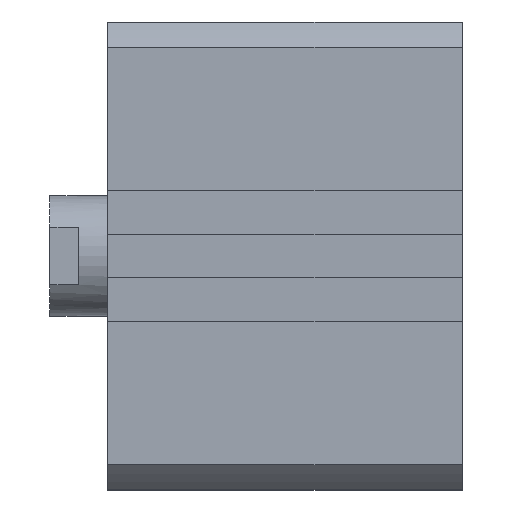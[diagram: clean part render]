
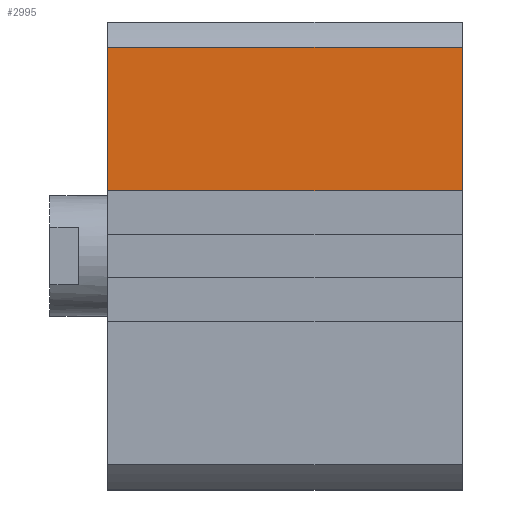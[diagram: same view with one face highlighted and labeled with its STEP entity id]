
A CAD part, left-side view. The second image highlights one B-rep face of the part: STEP entity #2995.
In plain terms, the highlighted planar face has unit normal (-1, 0, 0).
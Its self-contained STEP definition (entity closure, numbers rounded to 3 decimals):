
#52 = VERTEX_POINT ( 'NONE', #1377 ) ;
#90 = AXIS2_PLACEMENT_3D ( 'NONE', #865, #832, #315 ) ;
#112 = EDGE_CURVE ( 'NONE', #169, #2019, #313, .T. ) ;
#169 = VERTEX_POINT ( 'NONE', #2729 ) ;
#191 = CARTESIAN_POINT ( 'NONE',  ( -48.5, -73.5, 43.275 ) ) ;
#313 = LINE ( 'NONE', #1635, #3055 ) ;
#315 = DIRECTION ( 'NONE',  ( 0., 0., 1. ) ) ;
#333 = LINE ( 'NONE', #1909, #1824 ) ;
#542 = LINE ( 'NONE', #2300, #1828 ) ;
#832 = DIRECTION ( 'NONE',  ( -1., 0., 0. ) ) ;
#846 = DIRECTION ( 'NONE',  ( 0., 1., 0. ) ) ;
#860 = ORIENTED_EDGE ( 'NONE', *, *, #2264, .T. ) ;
#865 = CARTESIAN_POINT ( 'NONE',  ( -48.5, -73.5, 0. ) ) ;
#926 = FACE_OUTER_BOUND ( 'NONE', #2475, .T. ) ;
#1377 = CARTESIAN_POINT ( 'NONE',  ( -48.5, 0., 43.275 ) ) ;
#1401 = ORIENTED_EDGE ( 'NONE', *, *, #1569, .F. ) ;
#1448 = EDGE_CURVE ( 'NONE', #169, #2859, #542, .T. ) ;
#1514 = DIRECTION ( 'NONE',  ( 0., 1., 0. ) ) ;
#1537 = ORIENTED_EDGE ( 'NONE', *, *, #1448, .F. ) ;
#1569 = EDGE_CURVE ( 'NONE', #2859, #52, #3112, .T. ) ;
#1635 = CARTESIAN_POINT ( 'NONE',  ( -48.5, -73.5, 0. ) ) ;
#1824 = VECTOR ( 'NONE', #846, 1000. ) ;
#1828 = VECTOR ( 'NONE', #1514, 1000. ) ;
#1909 = CARTESIAN_POINT ( 'NONE',  ( -48.5, -73.5, 43.275 ) ) ;
#2019 = VERTEX_POINT ( 'NONE', #191 ) ;
#2084 = CARTESIAN_POINT ( 'NONE',  ( -48.5, 0., 0. ) ) ;
#2264 = EDGE_CURVE ( 'NONE', #2019, #52, #333, .T. ) ;
#2274 = ORIENTED_EDGE ( 'NONE', *, *, #112, .T. ) ;
#2300 = CARTESIAN_POINT ( 'NONE',  ( -48.5, -73.5, 13.5 ) ) ;
#2405 = VECTOR ( 'NONE', #3100, 1000. ) ;
#2475 = EDGE_LOOP ( 'NONE', ( #1401, #1537, #2274, #860 ) ) ;
#2637 = CARTESIAN_POINT ( 'NONE',  ( -48.5, 0., 13.5 ) ) ;
#2653 = DIRECTION ( 'NONE',  ( 0., 0., 1. ) ) ;
#2729 = CARTESIAN_POINT ( 'NONE',  ( -48.5, -73.5, 13.5 ) ) ;
#2859 = VERTEX_POINT ( 'NONE', #2637 ) ;
#2909 = PLANE ( 'NONE',  #90 ) ;
#2995 = ADVANCED_FACE ( 'NONE', ( #926 ), #2909, .T. ) ;
#3055 = VECTOR ( 'NONE', #2653, 1000. ) ;
#3100 = DIRECTION ( 'NONE',  ( 0., 0., 1. ) ) ;
#3112 = LINE ( 'NONE', #2084, #2405 ) ;
